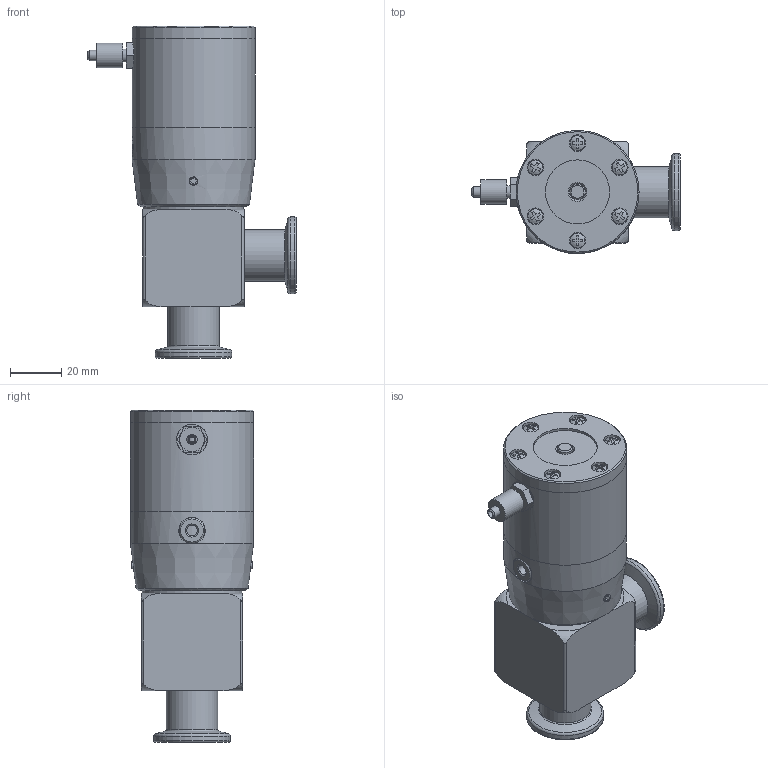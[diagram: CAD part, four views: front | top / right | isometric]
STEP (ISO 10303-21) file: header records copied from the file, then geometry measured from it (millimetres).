
FILE_DESCRIPTION( ( 'Unknown' ), '1' );
FILE_NAME( 'X:/Daten ( aktueller Bestand )/Projekte und Zeichnungen/Solid Edge/STP-Dateien/Eck-Durchg.ventile el.pneumatisch/311211.stp', 'Unknown', ( 'Unknown' ), ( 'Unknown' ), 'PSStep 14.0', 'Unknown', ' ' );
FILE_SCHEMA( ( 'AUTOMOTIVE_DESIGN { 1 0 10303 214 1 1 1 1 }' ) );
Length unit declared in the file: millimetre
Products named in the file (11): Assem1; Eckvent. 16 KoerperVA; Eckvent.16 Stutzen; 3102-1; 3102-2; 3102-3; 3102-4; M3x4; Schraube_3x8; Druckluftanschl.; Anschluss Festo
Assembly tree (16 placements, depth 2):
  Assem1
    Eckvent. 16 KoerperVA
    Eckvent.16 Stutzen
    3102-1
    3102-2
    3102-3
    3102-4
    M3x4  x2
    Schraube_3x8  x6
    Druckluftanschl.
    Anschluss Festo
Bounding box: 81.2 x 48 x 129.5 mm (x, y, z)
Volume: 175940.2 mm3; surface area: 48287.8 mm2
Topology: 16 solids, 16 shells, 289 faces, 672 edges, 444 vertices
Faces by surface type: plane 170, cylinder 72, cone 27, torus 14, sphere 6
Full cylindrical faces by diameter (mm): 2 x1, 2.459 x6, 2.8 x1, 3 x9, 3.242 x2, 3.3 x6, 4 x1, 4.134 x2, 5 x2, 5.793 x6, 6 x2, 6.3 x1, 6.5 x6, 9.518 x1, 10 x1, 10.3 x1, 12 x1, 12.5 x1, 17.2 x2, 20 x4, 25 x1, 26 x1, 30 x2, 33.739 x1, 37.97 x1, 39 x1, 39.8 x1, 43.698 x1, 48 x3
Entity records: 6840 total; most frequent: CARTESIAN_POINT 1507, DIRECTION 802, ORIENTED_EDGE 570, AXIS2_PLACEMENT_3D 350, EDGE_LOOP 321, EDGE_CURVE 285, FACE_OUTER_BOUND 248, VERTEX_POINT 237
